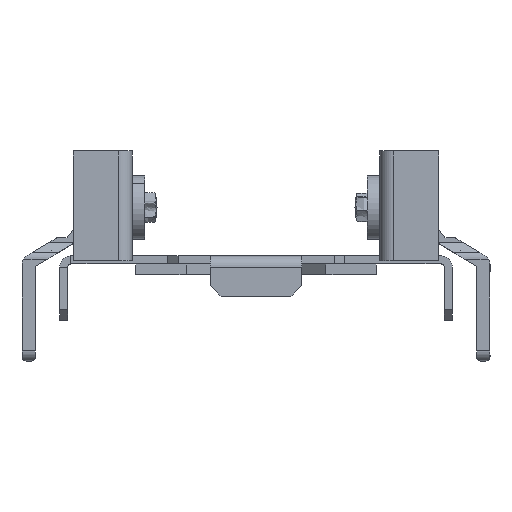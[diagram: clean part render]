
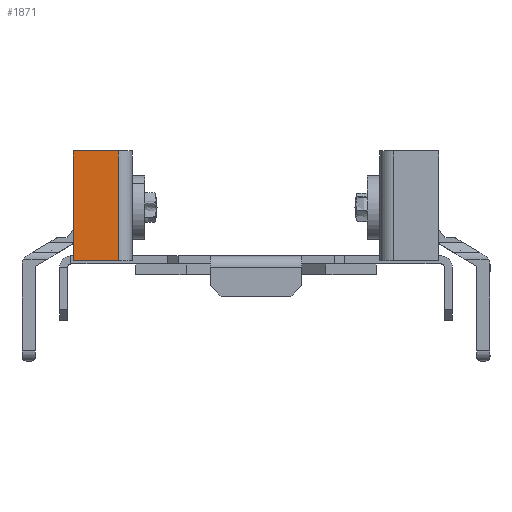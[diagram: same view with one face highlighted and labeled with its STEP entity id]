
A CAD part, left-side view. The second image highlights one B-rep face of the part: STEP entity #1871.
In plain terms, the highlighted planar face has unit normal (-1, 0, 0).
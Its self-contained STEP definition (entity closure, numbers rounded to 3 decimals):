
#971=CARTESIAN_POINT(' ',(-51.,-9.,-11.5));
#972=VERTEX_POINT(' ',#971);
#986=CARTESIAN_POINT(' ',(-51.,-0.6,-11.5));
#991=DIRECTION(' ',(0.,-1.,0.));
#996=VECTOR(' ',#991,1.);
#1001=LINE('',#986,#996);
#1006=CARTESIAN_POINT(' ',(-51.,-0.6,-11.5));
#1007=VERTEX_POINT(' ',#1006);
#1011=EDGE_CURVE(' ',#1007,#972,#1001,.T.);
#1116=CARTESIAN_POINT(' ',(-51.,-0.6,-11.5));
#1121=DIRECTION(' ',(0.,0.,1.));
#1126=VECTOR(' ',#1121,1.);
#1131=LINE('',#1116,#1126);
#1136=CARTESIAN_POINT(' ',(-51.,-0.6,8.9));
#1137=VERTEX_POINT(' ',#1136);
#1141=EDGE_CURVE(' ',#1007,#1137,#1131,.T.);
#1241=CARTESIAN_POINT(' ',(-51.,-9.,8.9));
#1246=DIRECTION(' ',(0.,1.,0.));
#1251=VECTOR(' ',#1246,1.);
#1256=LINE('',#1241,#1251);
#1261=CARTESIAN_POINT(' ',(-51.,-9.,8.9));
#1262=VERTEX_POINT(' ',#1261);
#1266=EDGE_CURVE(' ',#1262,#1137,#1256,.T.);
#1766=CARTESIAN_POINT(' ',(-51.,-9.,-11.5));
#1771=DIRECTION(' ',(0.,0.,1.));
#1776=VECTOR(' ',#1771,1.);
#1781=LINE('',#1766,#1776);
#1786=EDGE_CURVE(' ',#972,#1262,#1781,.T.);
#1816=DIRECTION(' ',(-1.,0.,-0.));
#1821=CARTESIAN_POINT(' ',(-51.,-9.,-11.5));
#1826=DIRECTION(' ',(-0.,0.,1.));
#1831=AXIS2_PLACEMENT_3D(' ',#1821,#1816,#1826);
#1836=PLANE('NONE',#1831);
#1841=ORIENTED_EDGE(' ',*,*,#1141,.F.);
#1846=ORIENTED_EDGE(' ',*,*,#1011,.T.);
#1851=ORIENTED_EDGE(' ',*,*,#1786,.T.);
#1856=ORIENTED_EDGE(' ',*,*,#1266,.T.);
#1861=EDGE_LOOP(' ',(#1841,#1846,#1851,#1856));
#1866=FACE_OUTER_BOUND(' ',#1861,.T.);
#1871=ADVANCED_FACE('NONE',(#1866),#1836,.T.);
